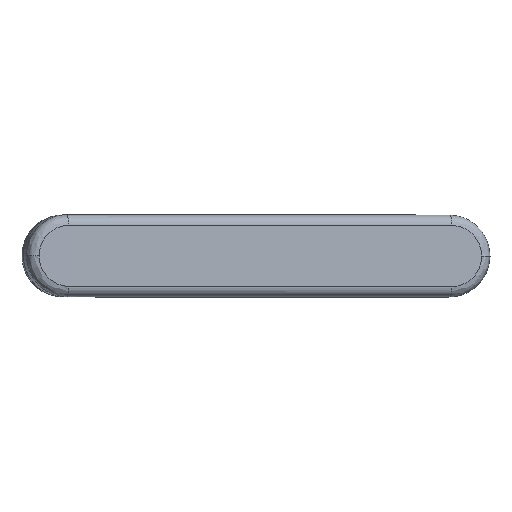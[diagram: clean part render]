
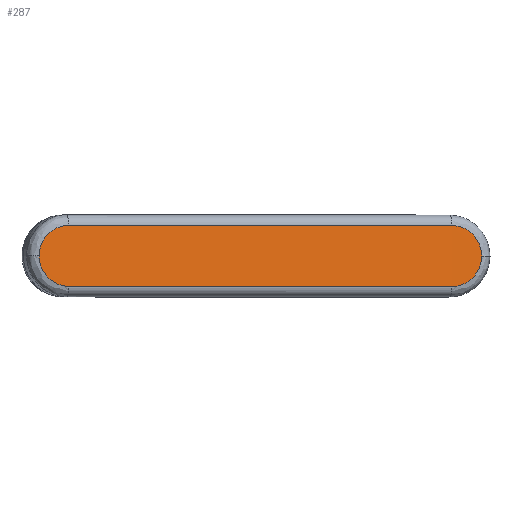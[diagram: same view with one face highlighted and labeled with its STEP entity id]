
A CAD part, top view. The second image highlights one B-rep face of the part: STEP entity #287.
In plain terms, the highlighted cylindrical face has radius 625 mm (diameter 1250 mm), a partial arc.
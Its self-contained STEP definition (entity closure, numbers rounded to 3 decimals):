
#199=AXIS2_PLACEMENT_3D('Cylinder Axis2P3D',#196,#197,#198) ;
#131=CARTESIAN_POINT('Control Point',(-41.317,-8.709,485.681)) ;
#132=CARTESIAN_POINT('Control Point',(-43.964,-8.708,486.231)) ;
#133=CARTESIAN_POINT('Control Point',(-46.649,-7.641,486.809)) ;
#134=CARTESIAN_POINT('Control Point',(-48.719,-5.475,487.268)) ;
#135=CARTESIAN_POINT('Control Point',(-49.758,-2.754,487.499)) ;
#136=CARTESIAN_POINT('Control Point',(-49.758,-0.031,487.498)) ;
#137=CARTESIAN_POINT('Vertex',(-41.317,-8.709,485.681)) ;
#139=CARTESIAN_POINT('Vertex',(-49.758,-0.031,487.498)) ;
#196=CARTESIAN_POINT('Axis2P3D Location',(-187.592,-0.238,-122.206)) ;
#202=CARTESIAN_POINT('Control Point',(-41.317,8.646,485.675)) ;
#203=CARTESIAN_POINT('Control Point',(-41.801,8.647,485.776)) ;
#204=CARTESIAN_POINT('Control Point',(-42.271,8.608,485.875)) ;
#205=CARTESIAN_POINT('Control Point',(-42.634,8.551,485.951)) ;
#206=CARTESIAN_POINT('Control Point',(-43.616,8.355,486.158)) ;
#207=CARTESIAN_POINT('Control Point',(-44.27,8.117,486.298)) ;
#208=CARTESIAN_POINT('Control Point',(-44.655,7.954,486.381)) ;
#209=CARTESIAN_POINT('Control Point',(-45.335,7.623,486.526)) ;
#210=CARTESIAN_POINT('Control Point',(-45.877,7.284,486.644)) ;
#211=CARTESIAN_POINT('Control Point',(-46.124,7.113,486.697)) ;
#212=CARTESIAN_POINT('Control Point',(-47.212,6.294,486.933)) ;
#213=CARTESIAN_POINT('Control Point',(-47.923,5.463,487.09)) ;
#214=CARTESIAN_POINT('Control Point',(-48.39,4.803,487.193)) ;
#215=CARTESIAN_POINT('Control Point',(-49.137,3.443,487.359)) ;
#216=CARTESIAN_POINT('Control Point',(-49.55,2.078,487.451)) ;
#217=CARTESIAN_POINT('Control Point',(-49.689,1.375,487.482)) ;
#218=CARTESIAN_POINT('Control Point',(-49.758,0.672,487.498)) ;
#219=CARTESIAN_POINT('Control Point',(-49.758,-0.031,487.498)) ;
#220=CARTESIAN_POINT('Vertex',(-41.317,8.646,485.675)) ;
#223=CARTESIAN_POINT('Line Origine',(13.874,8.642,474.18)) ;
#227=CARTESIAN_POINT('Vertex',(67.841,8.638,462.94)) ;
#231=CARTESIAN_POINT('Control Point',(67.841,8.638,462.94)) ;
#232=CARTESIAN_POINT('Control Point',(68.324,8.639,462.839)) ;
#233=CARTESIAN_POINT('Control Point',(68.794,8.6,462.742)) ;
#234=CARTESIAN_POINT('Control Point',(69.158,8.543,462.667)) ;
#235=CARTESIAN_POINT('Control Point',(70.141,8.347,462.465)) ;
#236=CARTESIAN_POINT('Control Point',(70.796,8.109,462.332)) ;
#237=CARTESIAN_POINT('Control Point',(71.183,7.946,462.253)) ;
#238=CARTESIAN_POINT('Control Point',(71.864,7.615,462.116)) ;
#239=CARTESIAN_POINT('Control Point',(72.408,7.275,462.007)) ;
#240=CARTESIAN_POINT('Control Point',(72.656,7.104,461.957)) ;
#241=CARTESIAN_POINT('Control Point',(73.747,6.286,461.74)) ;
#242=CARTESIAN_POINT('Control Point',(74.461,5.454,461.599)) ;
#243=CARTESIAN_POINT('Control Point',(74.931,4.794,461.507)) ;
#244=CARTESIAN_POINT('Control Point',(75.682,3.434,461.361)) ;
#245=CARTESIAN_POINT('Control Point',(76.097,2.069,461.281)) ;
#246=CARTESIAN_POINT('Control Point',(76.237,1.366,461.254)) ;
#247=CARTESIAN_POINT('Control Point',(76.307,0.663,461.241)) ;
#248=CARTESIAN_POINT('Control Point',(76.307,-0.04,461.241)) ;
#249=CARTESIAN_POINT('Vertex',(76.307,-0.04,461.241)) ;
#253=CARTESIAN_POINT('Control Point',(67.841,-8.717,462.946)) ;
#254=CARTESIAN_POINT('Control Point',(68.324,-8.718,462.845)) ;
#255=CARTESIAN_POINT('Control Point',(68.794,-8.678,462.747)) ;
#256=CARTESIAN_POINT('Control Point',(69.158,-8.621,462.672)) ;
#257=CARTESIAN_POINT('Control Point',(70.141,-8.426,462.471)) ;
#258=CARTESIAN_POINT('Control Point',(70.796,-8.188,462.337)) ;
#259=CARTESIAN_POINT('Control Point',(71.183,-8.025,462.259)) ;
#260=CARTESIAN_POINT('Control Point',(71.864,-7.694,462.121)) ;
#261=CARTESIAN_POINT('Control Point',(72.408,-7.354,462.012)) ;
#262=CARTESIAN_POINT('Control Point',(72.656,-7.183,461.962)) ;
#263=CARTESIAN_POINT('Control Point',(73.747,-6.365,461.744)) ;
#264=CARTESIAN_POINT('Control Point',(74.461,-5.533,461.603)) ;
#265=CARTESIAN_POINT('Control Point',(74.931,-4.874,461.51)) ;
#266=CARTESIAN_POINT('Control Point',(75.682,-3.514,461.363)) ;
#267=CARTESIAN_POINT('Control Point',(76.097,-2.148,461.282)) ;
#268=CARTESIAN_POINT('Control Point',(76.237,-1.446,461.255)) ;
#269=CARTESIAN_POINT('Control Point',(76.307,-0.743,461.241)) ;
#270=CARTESIAN_POINT('Control Point',(76.307,-0.04,461.241)) ;
#271=CARTESIAN_POINT('Vertex',(67.841,-8.717,462.946)) ;
#274=CARTESIAN_POINT('Line Origine',(13.874,-8.713,474.186)) ;
#197=DIRECTION('Axis2P3D Direction',(0.979,0.,-0.204)) ;
#198=DIRECTION('Axis2P3D XDirection',(0.204,0.029,0.979)) ;
#224=DIRECTION('Vector Direction',(0.979,0.,-0.204)) ;
#275=DIRECTION('Vector Direction',(0.979,0.,-0.204)) ;
#225=VECTOR('Line Direction',#224,1.) ;
#276=VECTOR('Line Direction',#275,1.) ;
#280=ORIENTED_EDGE('',*,*,#222,.F.) ;
#281=ORIENTED_EDGE('',*,*,#229,.F.) ;
#282=ORIENTED_EDGE('',*,*,#251,.T.) ;
#283=ORIENTED_EDGE('',*,*,#273,.F.) ;
#284=ORIENTED_EDGE('',*,*,#278,.T.) ;
#285=ORIENTED_EDGE('',*,*,#141,.T.) ;
#287=ADVANCED_FACE('Surface.23',(#286),#200,.F.) ;
#130=B_SPLINE_CURVE_WITH_KNOTS('',5,(#131,#132,#133,#134,#135,#136),.UNSPECIFIED.,.F.,.U.,(6,6),(0.,18.398),.UNSPECIFIED.) ;
#201=B_SPLINE_CURVE_WITH_KNOTS('',5,(#202,#203,#204,#205,#206,#207,#208,#209,#210,#211,#212,#213,#214,#215,#216,#217,#218,#219),.UNSPECIFIED.,.F.,.U.,(6,3,3,3,3,6),(0.,0.641,1.974,3.307,8.323,13.63),.UNSPECIFIED.) ;
#230=B_SPLINE_CURVE_WITH_KNOTS('',5,(#231,#232,#233,#234,#235,#236,#237,#238,#239,#240,#241,#242,#243,#244,#245,#246,#247,#248),.UNSPECIFIED.,.F.,.U.,(6,3,3,3,3,6),(0.,0.641,1.974,3.307,8.323,13.63),.UNSPECIFIED.) ;
#252=B_SPLINE_CURVE_WITH_KNOTS('',5,(#253,#254,#255,#256,#257,#258,#259,#260,#261,#262,#263,#264,#265,#266,#267,#268,#269,#270),.UNSPECIFIED.,.F.,.U.,(6,3,3,3,3,6),(0.,0.641,1.974,3.307,8.323,13.63),.UNSPECIFIED.) ;
#200=CYLINDRICAL_SURFACE('generated cylinder',#199,625.) ;
#141=EDGE_CURVE('',#138,#140,#130,.T.) ;
#222=EDGE_CURVE('',#221,#140,#201,.T.) ;
#229=EDGE_CURVE('',#228,#221,#226,.F.) ;
#251=EDGE_CURVE('',#228,#250,#230,.T.) ;
#273=EDGE_CURVE('',#272,#250,#252,.T.) ;
#278=EDGE_CURVE('',#272,#138,#277,.F.) ;
#279=EDGE_LOOP('',(#280,#281,#282,#283,#284,#285)) ;
#286=FACE_OUTER_BOUND('',#279,.T.) ;
#226=LINE('Line',#223,#225) ;
#277=LINE('Line',#274,#276) ;
#138=VERTEX_POINT('',#137) ;
#140=VERTEX_POINT('',#139) ;
#221=VERTEX_POINT('',#220) ;
#228=VERTEX_POINT('',#227) ;
#250=VERTEX_POINT('',#249) ;
#272=VERTEX_POINT('',#271) ;
